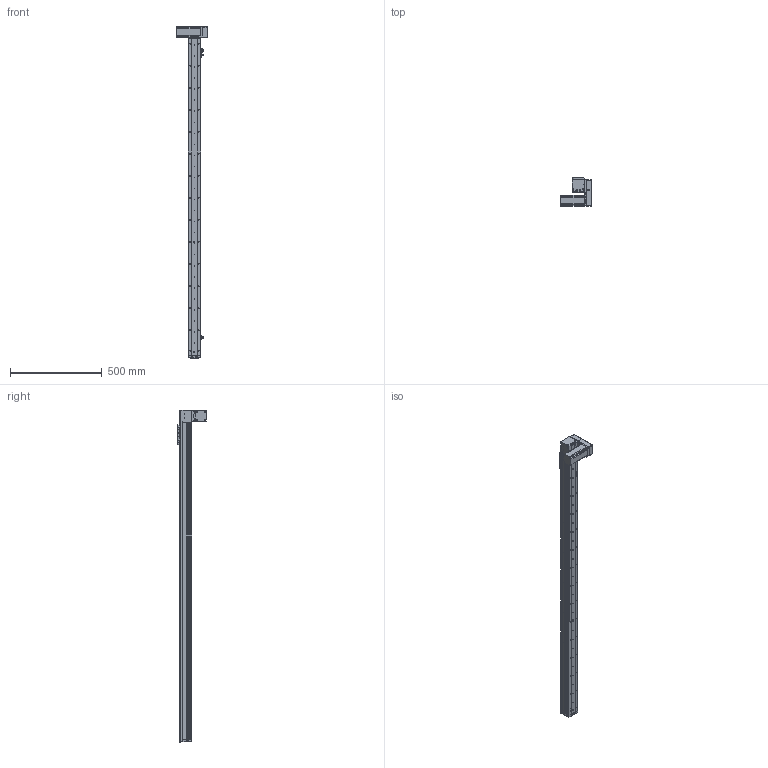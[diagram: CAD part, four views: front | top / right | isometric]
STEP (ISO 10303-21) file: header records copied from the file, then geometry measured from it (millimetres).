
FILE_DESCRIPTION (( 'STEP AP214' ), '1' );
FILE_NAME ('KSD68BS-S1550-MLD-CR.STEP', '2019-11-07T05:53:39', ( '微软用户' ), ( '微软中国' ), 'SwSTEP 2.0', 'SolidWorks 2014', '' );
FILE_SCHEMA (( 'AUTOMOTIVE_DESIGN' ));
Length unit declared in the file: millimetre
Products named in the file (14): 感应片68宽全封闭; KSD68BS 1550行程盖板全封闭; U倰嫖萇EEㄜSX672; 台达ECMA－C20604AS伺服电机（400W); KSD68BS 1550行程底板全封闭; KSD68BS-S1550-MLD-CR; 68遵裔啣揤啣1; 68宽单导轨全封闭丝杆传动安装板1防护罩; KSD68BS 1550行程侧板全封闭; 68宽单导轨全封闭同步带端板; 68单导轨全封闭同步带电机座左; 68单导轨全封闭同步带安装板; 悵誘欶奻狟殏; 68宽马达安装板连板上折同步带
Assembly tree (17 placements, depth 2):
  KSD68BS-S1550-MLD-CR
    KSD68BS 1550行程底板全封闭
    台达ECMA－C20604AS伺服电机（400W)
    U倰嫖萇EEㄜSX672  x3
    感应片68宽全封闭
    68宽马达安装板连板上折同步带
    悵誘欶奻狟殏
    68单导轨全封闭同步带安装板
    68单导轨全封闭同步带电机座左
    68宽单导轨全封闭同步带端板
    KSD68BS 1550行程侧板全封闭  x2
    68宽单导轨全封闭丝杆传动安装板1防护罩
    68遵裔啣揤啣1  x2
    KSD68BS 1550行程盖板全封闭
Bounding box: 167.2 x 155.5 x 1808.1 mm (x, y, z)
Volume: 3277310.9 mm3; surface area: 1321633.5 mm2
Topology: 18 solids, 18 shells, 1603 faces, 4613 edges, 2940 vertices
Faces by surface type: cylinder 786, plane 629, cone 188
Entity records: 52247 total; most frequent: CARTESIAN_POINT 9115, DIRECTION 7772, ORIENTED_EDGE 7438, EDGE_CURVE 3719, AXIS2_PLACEMENT_3D 2833, VERTEX_POINT 2438, VECTOR 2106, LINE 2106
